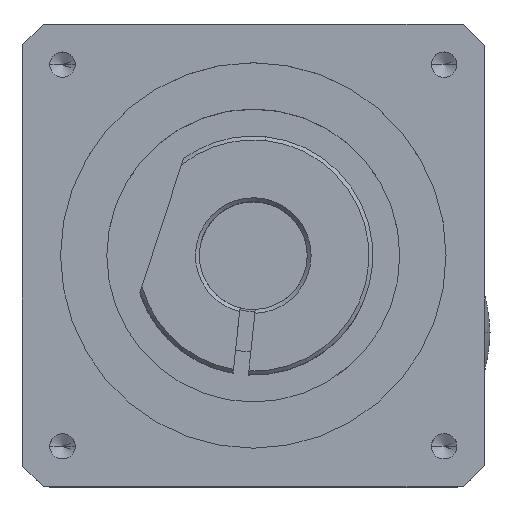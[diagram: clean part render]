
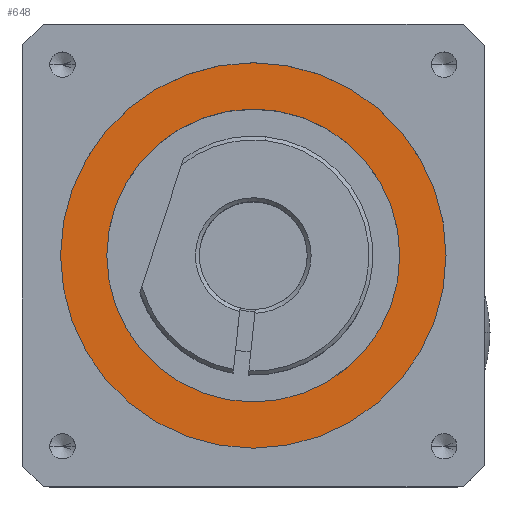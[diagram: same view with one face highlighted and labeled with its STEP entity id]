
A CAD part, top view. The second image highlights one B-rep face of the part: STEP entity #648.
In plain terms, the highlighted planar face has unit normal (0, 0, 1).
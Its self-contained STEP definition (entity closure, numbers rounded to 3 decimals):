
#173 = PLANE ( 'NONE',  #3760 ) ;
#239 = AXIS2_PLACEMENT_3D ( 'NONE', #7044, #3056, #1272 ) ;
#648 = ADVANCED_FACE ( 'NONE', ( #8779, #8838 ), #173, .T. ) ;
#938 = CARTESIAN_POINT ( 'NONE',  ( -21.204, -3.534, 77. ) ) ;
#1272 = DIRECTION ( 'NONE',  ( 1., 0., 0. ) ) ;
#1993 = AXIS2_PLACEMENT_3D ( 'NONE', #4309, #3368, #7237 ) ;
#2419 = DIRECTION ( 'NONE',  ( 1., 0., 0. ) ) ;
#3003 = VERTEX_POINT ( 'NONE', #4803 ) ;
#3056 = DIRECTION ( 'NONE',  ( 0., 0., 1. ) ) ;
#3368 = DIRECTION ( 'NONE',  ( 0., 0., 1. ) ) ;
#3446 = CARTESIAN_POINT ( 'NONE',  ( -40.204, -3.534, 77. ) ) ;
#3760 = AXIS2_PLACEMENT_3D ( 'NONE', #938, #4043, #7821 ) ;
#4043 = DIRECTION ( 'NONE',  ( 0., 0., 1. ) ) ;
#4047 = ORIENTED_EDGE ( 'NONE', *, *, #11809, .F. ) ;
#4309 = CARTESIAN_POINT ( 'NONE',  ( -21.204, -3.534, 77. ) ) ;
#4597 = EDGE_CURVE ( 'NONE', #3003, #11555, #7927, .T. ) ;
#4803 = CARTESIAN_POINT ( 'NONE',  ( -2.204, -3.534, 77. ) ) ;
#5058 = ORIENTED_EDGE ( 'NONE', *, *, #10431, .T. ) ;
#5454 = DIRECTION ( 'NONE',  ( 0., 0., 1. ) ) ;
#6238 = CIRCLE ( 'NONE', #10123, 25. ) ;
#6286 = CARTESIAN_POINT ( 'NONE',  ( -21.204, -3.534, 77. ) ) ;
#7044 = CARTESIAN_POINT ( 'NONE',  ( -21.204, -3.534, 77. ) ) ;
#7114 = CIRCLE ( 'NONE', #239, 19. ) ;
#7237 = DIRECTION ( 'NONE',  ( 1., 0., 0. ) ) ;
#7734 = VERTEX_POINT ( 'NONE', #7768 ) ;
#7747 = ORIENTED_EDGE ( 'NONE', *, *, #9668, .T. ) ;
#7768 = CARTESIAN_POINT ( 'NONE',  ( -46.204, -3.534, 77. ) ) ;
#7821 = DIRECTION ( 'NONE',  ( 1., 0., 0. ) ) ;
#7927 = CIRCLE ( 'NONE', #8741, 19. ) ;
#8208 = ORIENTED_EDGE ( 'NONE', *, *, #4597, .F. ) ;
#8623 = CARTESIAN_POINT ( 'NONE',  ( -21.204, -3.534, 77. ) ) ;
#8741 = AXIS2_PLACEMENT_3D ( 'NONE', #8623, #12288, #9514 ) ;
#8779 = FACE_BOUND ( 'NONE', #12068, .T. ) ;
#8838 = FACE_OUTER_BOUND ( 'NONE', #10985, .T. ) ;
#9118 = CIRCLE ( 'NONE', #1993, 25. ) ;
#9514 = DIRECTION ( 'NONE',  ( 1., 0., 0. ) ) ;
#9668 = EDGE_CURVE ( 'NONE', #11824, #7734, #9118, .T. ) ;
#10123 = AXIS2_PLACEMENT_3D ( 'NONE', #6286, #5454, #2419 ) ;
#10431 = EDGE_CURVE ( 'NONE', #7734, #11824, #6238, .T. ) ;
#10948 = CARTESIAN_POINT ( 'NONE',  ( 3.796, -3.534, 77. ) ) ;
#10985 = EDGE_LOOP ( 'NONE', ( #7747, #5058 ) ) ;
#11555 = VERTEX_POINT ( 'NONE', #3446 ) ;
#11809 = EDGE_CURVE ( 'NONE', #11555, #3003, #7114, .T. ) ;
#11824 = VERTEX_POINT ( 'NONE', #10948 ) ;
#12068 = EDGE_LOOP ( 'NONE', ( #8208, #4047 ) ) ;
#12288 = DIRECTION ( 'NONE',  ( 0., 0., 1. ) ) ;
